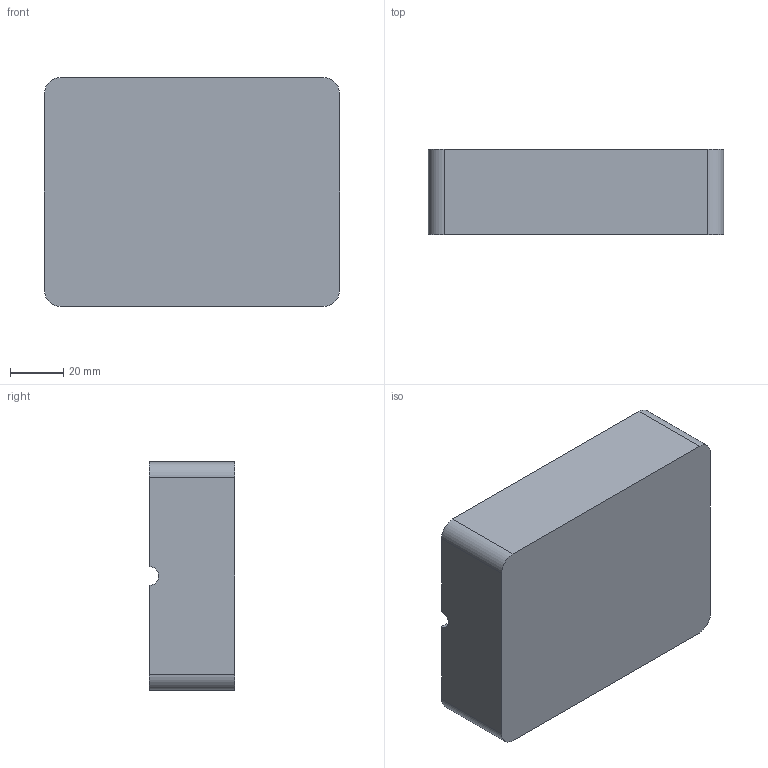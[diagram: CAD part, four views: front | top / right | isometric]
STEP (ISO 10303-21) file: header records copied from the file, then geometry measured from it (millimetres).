
FILE_DESCRIPTION(/* description */ ('STEP AP242 Edition 2','CAx-IF Rec.Pracs.---Representation and Presentation of Product Manufacturing Information (PMI)---4.0---2014-10-13','CAx-IF Rec.Pracs.---3D Tessellated Geometry---0.4---2014-09-14','2;1','CAx-IF Rec.Pracs.---User Defined Attributes---1.5---2016-08-15'),/* implementation_level */ '2;1');
FILE_NAME(/* name */ 'Assembly 1 - Base_Tray',/* time_stamp */ '2026-11-02T12:33:13Z',/* author */ (''),/* organization */ (''),/* preprocessor_version */ 'ST-DEVELOPER v20',/* originating_system */ 'ONSHAPE BY PTC INC, 1.223',/* authorisation */ ' ');
FILE_SCHEMA (('AP242_MANAGED_MODEL_BASED_3D_ENGINEERING_MIM_LF { 1 0 10303 442 3 1 4 }'));
Length unit declared in the file: millimetre
Products named in the file (1): Base_Tray
Bounding box: 111 x 32 x 86 mm (x, y, z)
Volume: 51746.4 mm3; surface area: 42900.3 mm2
Topology: 1 solids, 1 shells, 34 faces, 72 edges, 48 vertices
Faces by surface type: plane 20, cylinder 14
Full cylindrical faces by diameter (mm): 2.8 x4, 7 x4
Entity records: 906 total; most frequent: DIRECTION 162, CARTESIAN_POINT 147, ORIENTED_EDGE 128, EDGE_CURVE 64, AXIS2_PLACEMENT_3D 63, EDGE_LOOP 50, FACE_BOUND 50, VERTEX_POINT 48
